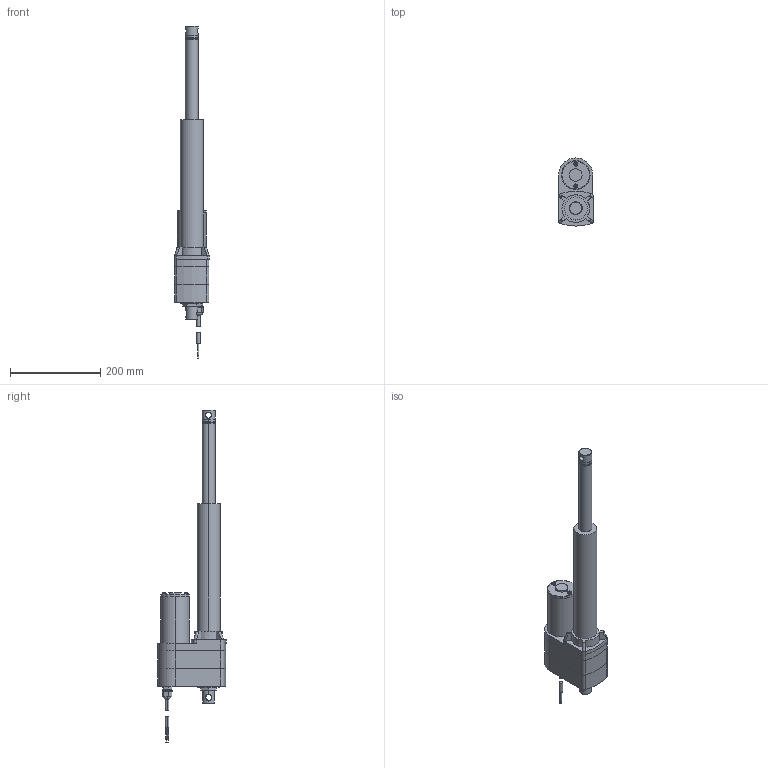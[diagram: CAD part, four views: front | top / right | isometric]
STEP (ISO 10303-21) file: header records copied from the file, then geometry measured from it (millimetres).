
FILE_DESCRIPTION (( 'STEP AP203' ), '1' );
FILE_NAME ('LA10_BALL_8x.step', '2021-02-24T15:35:47', ( '' ), ( '' ), 'SwSTEP 2.0', 'SolidWorks 2017', '' );
FILE_SCHEMA (( 'CONFIG_CONTROL_DESIGN' ));
Length unit declared in the file: millimetre
Products named in the file (1): LA10_BALL_8x
Bounding box: 77.22 x 151.29 x 737.57 mm (x, y, z)
Volume: 2224286.9 mm3; surface area: 223826.5 mm2
Topology: 14 solids, 14 shells, 327 faces, 704 edges, 436 vertices
Faces by surface type: plane 156, cylinder 103, cone 24, bspline 22, torus 18, sphere 4
Entity records: 10888 total; most frequent: CARTESIAN_POINT 3656, DIRECTION 1547, ORIENTED_EDGE 1408, EDGE_CURVE 704, AXIS2_PLACEMENT_3D 607, VERTEX_POINT 436, EDGE_LOOP 366, VECTOR 333
